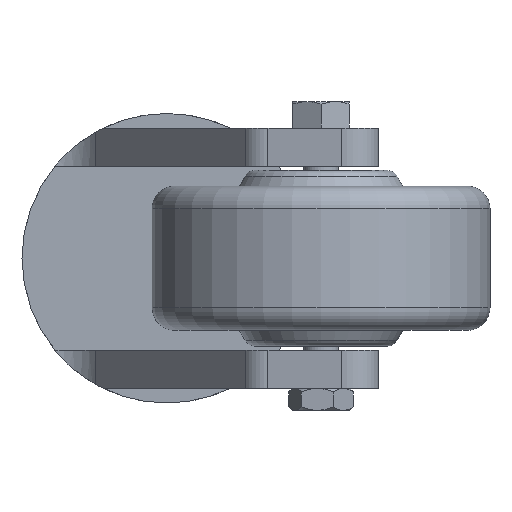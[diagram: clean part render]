
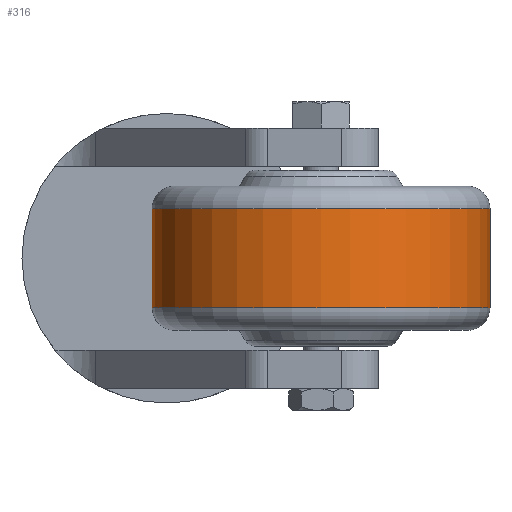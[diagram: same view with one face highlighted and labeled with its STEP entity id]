
A CAD part, front view. The second image highlights one B-rep face of the part: STEP entity #316.
In plain terms, the highlighted cylindrical face has radius 38.1 mm (diameter 76.2 mm), a partial arc.
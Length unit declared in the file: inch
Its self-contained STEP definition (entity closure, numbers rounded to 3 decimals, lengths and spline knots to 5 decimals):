
#68 = EDGE_CURVE ( 'NONE', #2334, #1042, #2238, .T. ) ;
#145 = LINE ( 'NONE', #1095, #2186 ) ;
#155 = CARTESIAN_POINT ( 'NONE',  ( 1.5, 0., 0.2 ) ) ;
#176 = ORIENTED_EDGE ( 'NONE', *, *, #2036, .T. ) ;
#293 = EDGE_CURVE ( 'NONE', #2334, #802, #145, .T. ) ;
#316 = ADVANCED_FACE ( 'NONE', ( #760 ), #2104, .T. ) ;
#319 = ORIENTED_EDGE ( 'NONE', *, *, #68, .T. ) ;
#367 = LINE ( 'NONE', #3306, #2419 ) ;
#406 = ORIENTED_EDGE ( 'NONE', *, *, #293, .F. ) ;
#462 = CARTESIAN_POINT ( 'NONE',  ( -1.5, 0., 1.08 ) ) ;
#514 = ORIENTED_EDGE ( 'NONE', *, *, #2634, .T. ) ;
#637 = CIRCLE ( 'NONE', #1461, 1.5 ) ;
#641 = CARTESIAN_POINT ( 'NONE',  ( 0., 0., 1.08 ) ) ;
#760 = FACE_OUTER_BOUND ( 'NONE', #3262, .T. ) ;
#790 = CARTESIAN_POINT ( 'NONE',  ( 1.5, 0., 1.08 ) ) ;
#802 = VERTEX_POINT ( 'NONE', #155 ) ;
#838 = DIRECTION ( 'NONE',  ( 0., 0., -1. ) ) ;
#915 = DIRECTION ( 'NONE',  ( 1., 0., 0. ) ) ;
#946 = CARTESIAN_POINT ( 'NONE',  ( -1.5, 0., 0.2 ) ) ;
#1042 = VERTEX_POINT ( 'NONE', #462 ) ;
#1095 = CARTESIAN_POINT ( 'NONE',  ( 1.5, 0., 1.28 ) ) ;
#1122 = CARTESIAN_POINT ( 'NONE',  ( 0., 0., 0.2 ) ) ;
#1387 = DIRECTION ( 'NONE',  ( 1., 0., 0. ) ) ;
#1461 = AXIS2_PLACEMENT_3D ( 'NONE', #1122, #2983, #1387 ) ;
#1641 = CARTESIAN_POINT ( 'NONE',  ( 0., 0., 1.28 ) ) ;
#2036 = EDGE_CURVE ( 'NONE', #2206, #802, #637, .T. ) ;
#2104 = CYLINDRICAL_SURFACE ( 'NONE', #3118, 1.5 ) ;
#2186 = VECTOR ( 'NONE', #2443, 39.37008 ) ;
#2206 = VERTEX_POINT ( 'NONE', #946 ) ;
#2238 = CIRCLE ( 'NONE', #2664, 1.5 ) ;
#2334 = VERTEX_POINT ( 'NONE', #790 ) ;
#2419 = VECTOR ( 'NONE', #3062, 39.37008 ) ;
#2443 = DIRECTION ( 'NONE',  ( 0., 0., -1. ) ) ;
#2524 = DIRECTION ( 'NONE',  ( 0., 0., -1. ) ) ;
#2634 = EDGE_CURVE ( 'NONE', #1042, #2206, #367, .T. ) ;
#2664 = AXIS2_PLACEMENT_3D ( 'NONE', #641, #2524, #915 ) ;
#2983 = DIRECTION ( 'NONE',  ( 0., 0., 1. ) ) ;
#3062 = DIRECTION ( 'NONE',  ( 0., 0., -1. ) ) ;
#3118 = AXIS2_PLACEMENT_3D ( 'NONE', #1641, #838, #3234 ) ;
#3234 = DIRECTION ( 'NONE',  ( -1., 0., 0. ) ) ;
#3262 = EDGE_LOOP ( 'NONE', ( #406, #319, #514, #176 ) ) ;
#3306 = CARTESIAN_POINT ( 'NONE',  ( -1.5, 0., 1.28 ) ) ;
